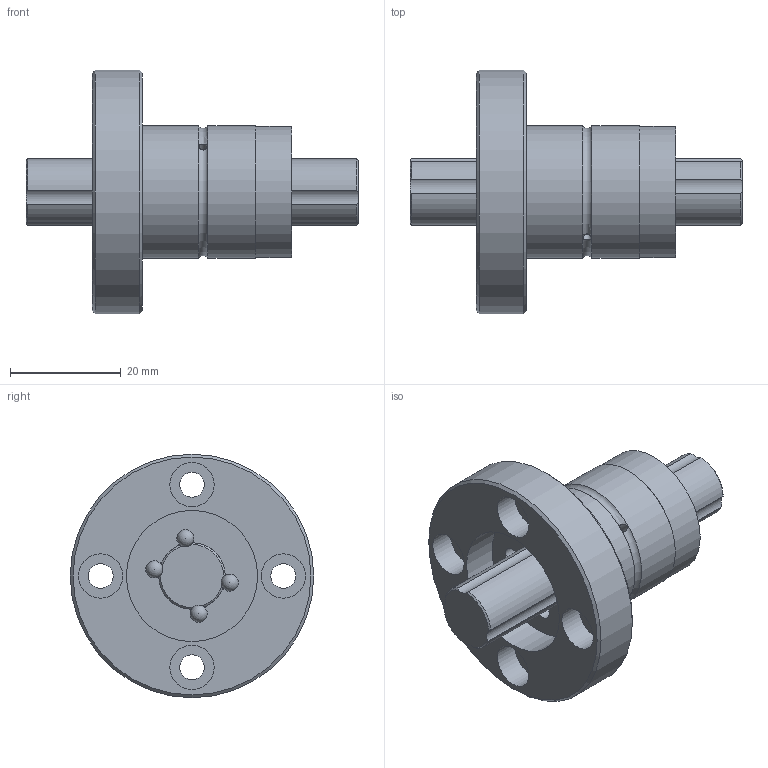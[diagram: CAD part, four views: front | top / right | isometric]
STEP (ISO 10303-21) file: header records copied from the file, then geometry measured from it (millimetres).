
FILE_DESCRIPTION(/* description */ ('Unknown'),/* implementation_level */ '2;1');
FILE_NAME(/* name */ 'TLF012-D-L60',/* time_stamp */ '2024-12-16T13:44:11+08:00',/* author */ ('Unknown'),/* organization */ ('Unknown'),/* preprocessor_version */ 'ST-DEVELOPER v18.102',/* originating_system */ 'Solid Edge',/* authorisation */ 'Unknown');
FILE_SCHEMA (('AUTOMOTIVE_DESIGN {1 0 10303 214 3 1 1}'));
Length unit declared in the file: millimetre
Products named in the file (3): TLF012-D-L60; TLF012-D-xxxx; TLF012
Assembly tree (2 placements, depth 2):
  TLF012-D-L60
    TLF012-D-xxxx
    TLF012
Bounding box: 60 x 44 x 44 mm (x, y, z)
Volume: 24375.4 mm3; surface area: 11883 mm2
Topology: 2 solids, 2 shells, 73 faces, 240 edges, 162 vertices
Faces by surface type: cylinder 31, sphere 20, plane 11, cone 10, torus 1
Full cylindrical faces by diameter (mm): 1.5 x2, 4.5 x4, 8 x4, 23.7 x2, 24 x2, 44 x1
Entity records: 2965 total; most frequent: CARTESIAN_POINT 1228, DIRECTION 336, ORIENTED_EDGE 280, EDGE_LOOP 164, FACE_BOUND 164, AXIS2_PLACEMENT_3D 160, EDGE_CURVE 140, VERTEX_POINT 116
